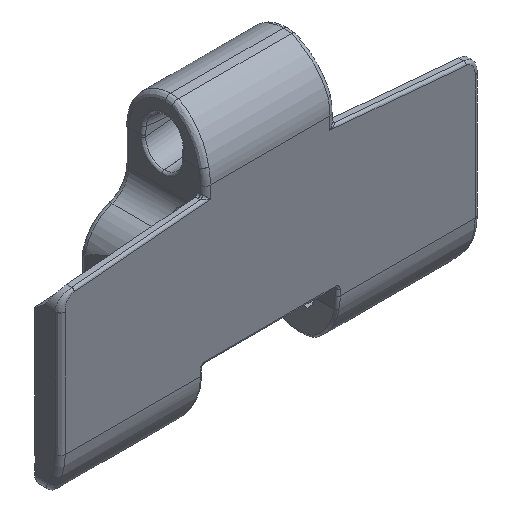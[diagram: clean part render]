
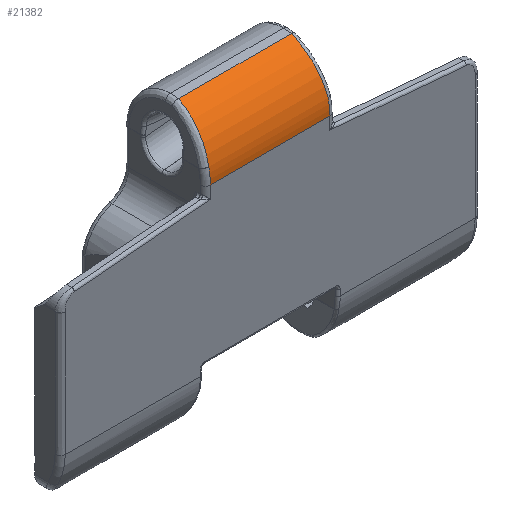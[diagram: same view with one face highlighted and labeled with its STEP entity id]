
A CAD part, isometric view. The second image highlights one B-rep face of the part: STEP entity #21382.
In plain terms, the highlighted cylindrical face has radius 12 mm (diameter 24 mm), a partial arc.
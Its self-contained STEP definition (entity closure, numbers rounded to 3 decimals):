
#3525=DIRECTION('',(1.,0.,0.));
#3526=VECTOR('',#3525,23.4);
#3527=CARTESIAN_POINT('',(-11.7,-8.5,15.55));
#3528=LINE('',#3527,#3526);
#3725=DIRECTION('',(1.,0.,0.));
#3726=VECTOR('',#3725,22.122);
#3727=CARTESIAN_POINT('',(-11.061,-1.593,
26.415));
#3728=LINE('',#3727,#3726);
#3729=CARTESIAN_POINT('',(11.061,-1.593,26.415));
#3730=CARTESIAN_POINT('',(11.072,-1.885,26.278));
#3731=CARTESIAN_POINT('',(11.096,-2.459,25.981));
#3732=CARTESIAN_POINT('',(11.137,-3.28,25.467));
#3733=CARTESIAN_POINT('',(11.184,-4.057,24.888));
#3734=CARTESIAN_POINT('',(11.235,-4.786,24.248));
#3735=CARTESIAN_POINT('',(11.291,-5.46,23.552));
#3736=CARTESIAN_POINT('',(11.351,-6.077,22.802));
#3737=CARTESIAN_POINT('',(11.415,-6.631,22.006));
#3738=CARTESIAN_POINT('',(11.482,-7.119,21.167));
#3739=CARTESIAN_POINT('',(11.552,-7.538,20.291));
#3740=CARTESIAN_POINT('',(11.625,-7.885,19.383));
#3741=CARTESIAN_POINT('',(11.675,-8.067,18.762));
#3742=CARTESIAN_POINT('',(11.7,-8.145,18.448));
#3744=CARTESIAN_POINT('',(11.7,3.5,15.55));
#3745=DIRECTION('',(1.,0.,0.));
#3746=DIRECTION('',(0.,-0.97,0.241));
#3747=AXIS2_PLACEMENT_3D('',#3744,#3745,#3746);
#3749=CARTESIAN_POINT('',(-11.7,3.5,15.55));
#3750=DIRECTION('',(1.,0.,0.));
#3751=DIRECTION('',(0.,-0.97,0.241));
#3752=AXIS2_PLACEMENT_3D('',#3749,#3750,#3751);
#3754=CARTESIAN_POINT('',(-11.061,-1.593,
26.415));
#3755=CARTESIAN_POINT('',(-11.072,-1.885,
26.278));
#3756=CARTESIAN_POINT('',(-11.096,-2.459,
25.981));
#3757=CARTESIAN_POINT('',(-11.137,-3.28,
25.467));
#3758=CARTESIAN_POINT('',(-11.184,-4.057,
24.888));
#3759=CARTESIAN_POINT('',(-11.235,-4.786,
24.248));
#3760=CARTESIAN_POINT('',(-11.291,-5.46,
23.552));
#3761=CARTESIAN_POINT('',(-11.351,-6.077,
22.802));
#3762=CARTESIAN_POINT('',(-11.415,-6.631,
22.006));
#3763=CARTESIAN_POINT('',(-11.482,-7.119,
21.167));
#3764=CARTESIAN_POINT('',(-11.552,-7.538,
20.291));
#3765=CARTESIAN_POINT('',(-11.625,-7.885,
19.383));
#3766=CARTESIAN_POINT('',(-11.675,-8.067,
18.762));
#3767=CARTESIAN_POINT('',(-11.7,-8.145,18.448));
#18020=CARTESIAN_POINT('',(11.7,-8.145,18.448));
#18021=CARTESIAN_POINT('',(11.7,-8.5,15.55));
#18022=VERTEX_POINT('',#18020);
#18023=VERTEX_POINT('',#18021);
#18026=VERTEX_POINT('',#3729);
#18099=CARTESIAN_POINT('',(-11.7,-8.145,18.448));
#18100=CARTESIAN_POINT('',(-11.7,-8.5,15.55));
#18101=VERTEX_POINT('',#18099);
#18102=VERTEX_POINT('',#18100);
#18105=VERTEX_POINT('',#3754);
#21364=CARTESIAN_POINT('',(0.,3.5,15.55));
#21365=DIRECTION('',(-1.,0.,0.));
#21366=DIRECTION('',(0.,0.,1.));
#21367=AXIS2_PLACEMENT_3D('',#21364,#21365,#21366);
#21368=CYLINDRICAL_SURFACE('',#21367,12.);
#21370=ORIENTED_EDGE('',*,*,#21369,.T.);
#21372=ORIENTED_EDGE('',*,*,#21371,.T.);
#21374=ORIENTED_EDGE('',*,*,#21373,.T.);
#21375=ORIENTED_EDGE('',*,*,#21334,.F.);
#21377=ORIENTED_EDGE('',*,*,#21376,.F.);
#21379=ORIENTED_EDGE('',*,*,#21378,.F.);
#21380=EDGE_LOOP('',(#21370,#21372,#21374,#21375,#21377,#21379));
#21381=FACE_OUTER_BOUND('',#21380,.F.);
#3743=B_SPLINE_CURVE_WITH_KNOTS('',3,(#3729,#3730,#3731,#3732,#3733,#3734,#3735,
#3736,#3737,#3738,#3739,#3740,#3741,#3742),.UNSPECIFIED.,.F.,.F.,(4,1,1,1,1,1,1,
1,1,1,1,4),(0.,0.091,0.182,0.273,
0.364,0.455,0.545,0.636,
0.727,0.818,0.909,1.),.UNSPECIFIED.);
#3748=CIRCLE('',#3747,12.);
#3753=CIRCLE('',#3752,12.);
#3768=B_SPLINE_CURVE_WITH_KNOTS('',3,(#3754,#3755,#3756,#3757,#3758,#3759,#3760,
#3761,#3762,#3763,#3764,#3765,#3766,#3767),.UNSPECIFIED.,.F.,.F.,(4,1,1,1,1,1,1,
1,1,1,1,4),(0.,0.091,0.182,0.273,
0.364,0.455,0.545,0.636,
0.727,0.818,0.909,1.),.UNSPECIFIED.);
#21334=EDGE_CURVE('',#18102,#18023,#3528,.T.);
#21369=EDGE_CURVE('',#18105,#18026,#3728,.T.);
#21371=EDGE_CURVE('',#18026,#18022,#3743,.T.);
#21373=EDGE_CURVE('',#18022,#18023,#3748,.T.);
#21376=EDGE_CURVE('',#18101,#18102,#3753,.T.);
#21378=EDGE_CURVE('',#18105,#18101,#3768,.T.);
#21382=ADVANCED_FACE('',(#21381),#21368,.T.);
